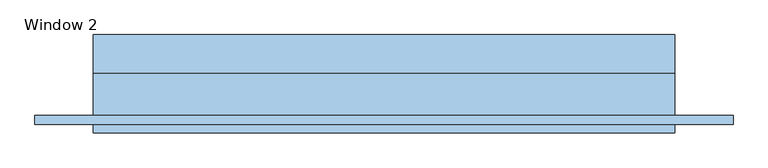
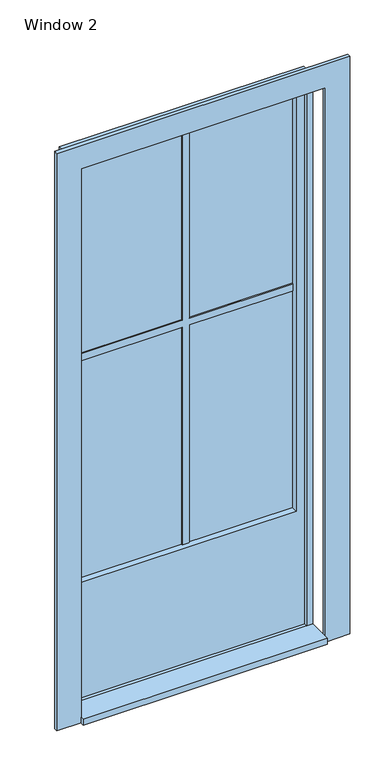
"""IFC4 building model written with IfcOpenShell, lengths in millimetres: window geometry, Window 2 : 1000/2400."""

from ifc_helpers import new_model, si_unit, frame, origin, origin_with_axes, place, context, project, spatial, polyline, outline, extrude, source, transform, mapped, element, save


def window_2_5e4ade40(model_context):
    return source(origin(), model_context, "Body", "SweptSolid", [
        extrude(outline(polyline([(500.0, -26.9623738), (500.0, -130.0), (-500.0, -130.0), (-500.0, -26.9623738), (500.0, -26.9623738)])), origin_with_axes(), (0.0, 0.0, 1.0), 25.0),
        extrude(outline(polyline([(2375.0, -475.0), (25.0, -475.0), (25.0, 475.0), (2375.0, 475.0), (2375.0, -475.0)]), holes=[polyline([(2340.0, -440.0), (2340.0, 440.0), (525.0, 440.0), (525.0, -440.0), (2340.0, -440.0)])]), frame((0.0, -11.4811869, 0.0), z_axis=(0.0, 1.0, 0.0), x_axis=(0.0, 0.0, 1.0)), (0.0, 0.0, 1.0), 50.5),
        extrude(outline(polyline([(0.0, -500.0), (0.0, 500.0), (2400.0, 500.0), (2400.0, -500.0), (0.0, -500.0)]), holes=[polyline([(25.0, -475.0), (2375.0, -475.0), (2375.0, 475.0), (25.0, 475.0), (25.0, -475.0)])]), frame((0.0, -26.9623738, 0.0), z_axis=(0.0, 1.0, 0.0), x_axis=(0.0, 0.0, 1.0)), (0.0, 0.0, 1.0), 65.9811869),
        extrude(outline(polyline([(2400.0, -500.0), (2400.0, 500.0), (0.0, 500.0), (0.0, 600.0), (2500.0, 600.0), (2500.0, -600.0), (0.0, -600.0), (0.0, -500.0), (2400.0, -500.0)])), frame((0.0, -115.0, 0.0), z_axis=(0.0, 1.0, 0.0), x_axis=(0.0, 0.0, 1.0)), (0.0, 0.0, 1.0), 15.0),
        extrude(outline(polyline([(1497.5, 440.0), (1497.5, 15.0), (2340.0, 15.0), (2340.0, -15.0), (1497.5, -15.0), (1497.5, -440.0), (1467.5, -440.0), (1467.5, -15.0), (525.0, -15.0), (525.0, 15.0), (1467.5, 15.0), (1467.5, 440.0), (1497.5, 440.0)])), frame((0.0, 8.5188131, 0.0), z_axis=(0.0, 1.0, 0.0), x_axis=(0.0, 0.0, 1.0)), (0.0, 0.0, 1.0), 20.0),
        extrude(outline(polyline([(440.0, 15.5188131), (440.0, 13.5188131), (-440.0, 13.5188131), (-440.0, 15.5188131), (440.0, 15.5188131)])), frame((0.0, 0.0, 525.0), z_axis=(0.0, 0.0, 1.0), x_axis=(1.0, 0.0, 0.0)), (0.0, 0.0, 1.0), 1815.0),
    ])


if __name__ == "__main__":
    model = new_model("IFC4")
    model_context = context("Model", 3, world=origin())
    ifc_project = project(units=[si_unit("LENGTHUNIT", "METRE", prefix="MILLI")], contexts=[model_context])
    site = spatial("IfcSite", under=ifc_project)
    building = spatial("IfcBuilding", under=site)
    placement = place(None, origin())
    window_2_shape = window_2_5e4ade40(model_context)
    element("IfcWindow", 1, ObjectType="Window 2 : 1000/2400", at=placement, inside=building, context=model_context, shape_type="MappedRepresentation", body=[
        mapped(window_2_shape, transform((0.0, 0.0, 0.0), x_axis=(1.0, 0.0, 0.0), y_axis=(0.0, 1.0, 0.0), z_axis=(0.0, 0.0, 1.0))),
    ])
    save(model, "model.ifc")
